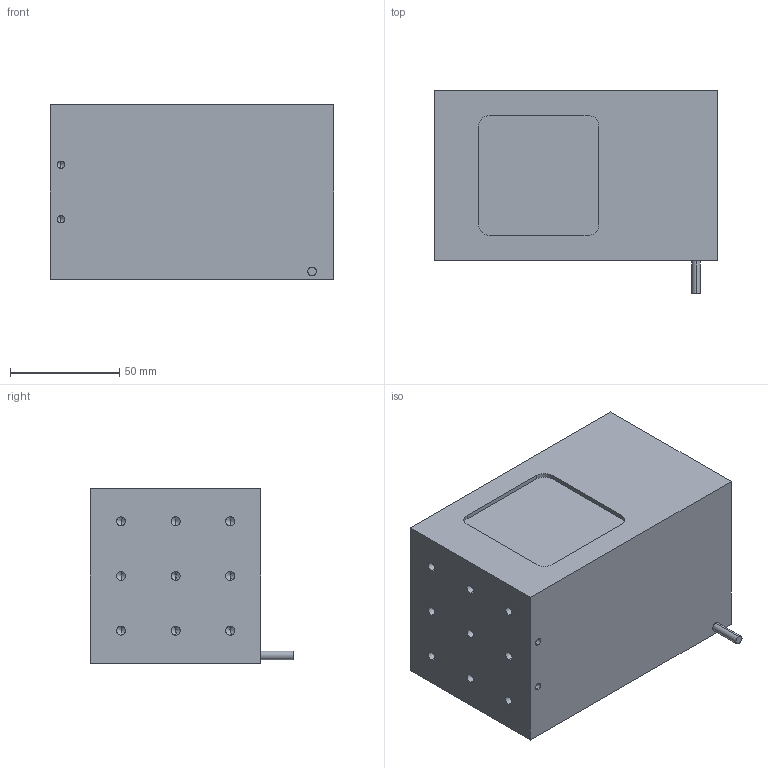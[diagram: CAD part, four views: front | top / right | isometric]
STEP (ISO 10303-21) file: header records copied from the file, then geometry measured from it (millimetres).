
FILE_DESCRIPTION (( 'STEP AP203' ), '1' );
FILE_NAME ('CRT-COL70-¼òÒ×3DÍ¼.STEP', '2022-01-07T06:43:58', ( 'Admin' ), ( '' ), 'SwSTEP 2.0', 'SolidWorks 2018', '' );
FILE_SCHEMA (( 'CONFIG_CONTROL_DESIGN' ));
Length unit declared in the file: millimetre
Products named in the file (1): CRT-COL70-潠眢3D芞
Bounding box: 130 x 93 x 80 mm (x, y, z)
Volume: 793757.8 mm3; surface area: 55988.5 mm2
Topology: 1 solids, 1 shells, 75 faces, 184 edges, 101 vertices
Faces by surface type: cylinder 32, cone 26, plane 17
Entity records: 2089 total; most frequent: DIRECTION 374, CARTESIAN_POINT 335, ORIENTED_EDGE 316, EDGE_CURVE 158, AXIS2_PLACEMENT_3D 140, VERTEX_POINT 101, VECTOR 94, LINE 94
